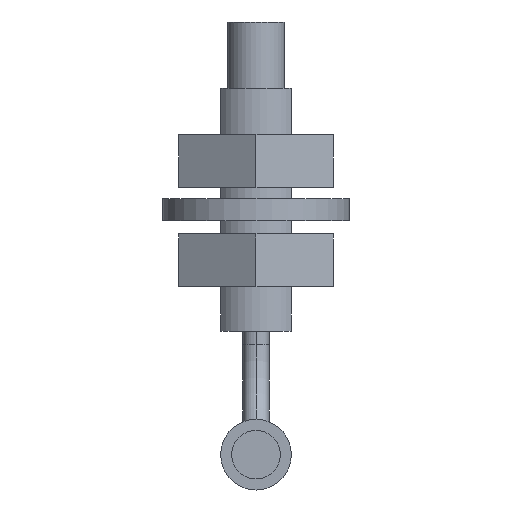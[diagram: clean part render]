
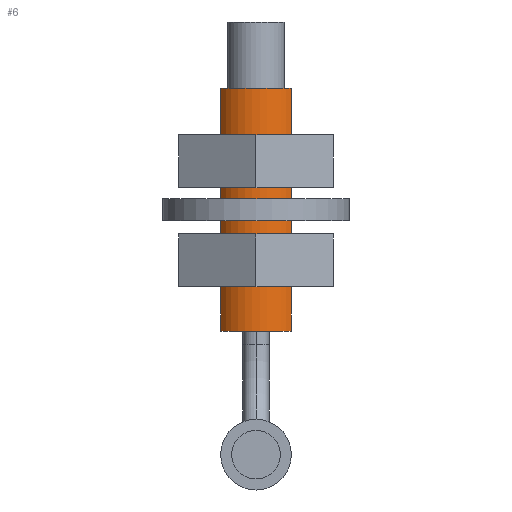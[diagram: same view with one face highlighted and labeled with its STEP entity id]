
A CAD part, front view. The second image highlights one B-rep face of the part: STEP entity #6.
In plain terms, the highlighted cylindrical face has radius 2 mm (diameter 4 mm), a partial arc.
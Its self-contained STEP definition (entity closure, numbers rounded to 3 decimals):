
#1 = ORIENTED_EDGE ( 'NONE', *, *, #12, .T. ) ;
#2 = EDGE_LOOP ( 'NONE', ( #1, #1502, #1491, #72 ) ) ;
#6 = ADVANCED_FACE ( 'NONE', ( #161 ), #158, .T. ) ;
#12 = EDGE_CURVE ( 'NONE', #18, #21, #139, .T. ) ;
#18 = VERTEX_POINT ( 'NONE', #196 ) ;
#21 = VERTEX_POINT ( 'NONE', #195 ) ;
#68 = EDGE_CURVE ( 'NONE', #97, #18, #245, .T. ) ;
#72 = ORIENTED_EDGE ( 'NONE', *, *, #68, .T. ) ;
#96 = EDGE_CURVE ( 'NONE', #97, #1492, #272, .T. ) ;
#97 = VERTEX_POINT ( 'NONE', #333 ) ;
#137 = CARTESIAN_POINT ( 'NONE',  ( 3., 0., 0. ) ) ;
#138 = AXIS2_PLACEMENT_3D ( 'NONE', #137, #203, #202 ) ;
#139 = CIRCLE ( 'NONE', #138, 2. ) ;
#155 = DIRECTION ( 'NONE',  ( 0., 0., 1. ) ) ;
#156 = DIRECTION ( 'NONE',  ( -1., 0., 0. ) ) ;
#157 = AXIS2_PLACEMENT_3D ( 'NONE', #160, #156, #155 ) ;
#158 = CYLINDRICAL_SURFACE ( 'NONE', #157, 2. ) ;
#160 = CARTESIAN_POINT ( 'NONE',  ( 14., 0., 0. ) ) ;
#161 = FACE_OUTER_BOUND ( 'NONE', #2, .T. ) ;
#195 = CARTESIAN_POINT ( 'NONE',  ( 3., -1.2, -1.6 ) ) ;
#196 = CARTESIAN_POINT ( 'NONE',  ( 3., -1.2, 1.6 ) ) ;
#202 = DIRECTION ( 'NONE',  ( 0., 0., -1. ) ) ;
#203 = DIRECTION ( 'NONE',  ( 1., 0., 0. ) ) ;
#242 = DIRECTION ( 'NONE',  ( -1., 0., 0. ) ) ;
#243 = VECTOR ( 'NONE', #242, 1000. ) ;
#244 = CARTESIAN_POINT ( 'NONE',  ( 14., -1.2, 1.6 ) ) ;
#245 = LINE ( 'NONE', #244, #243 ) ;
#269 = DIRECTION ( 'NONE',  ( 1., 0., 0. ) ) ;
#270 = CARTESIAN_POINT ( 'NONE',  ( 14., 0., 0. ) ) ;
#271 = AXIS2_PLACEMENT_3D ( 'NONE', #270, #269, #334 ) ;
#272 = CIRCLE ( 'NONE', #271, 2. ) ;
#333 = CARTESIAN_POINT ( 'NONE',  ( 14., -1.2, 1.6 ) ) ;
#334 = DIRECTION ( 'NONE',  ( 0., 0., -1. ) ) ;
#1300 = DIRECTION ( 'NONE',  ( -1., 0., 0. ) ) ;
#1301 = VECTOR ( 'NONE', #1300, 1000. ) ;
#1302 = CARTESIAN_POINT ( 'NONE',  ( 14., -1.2, -1.6 ) ) ;
#1303 = LINE ( 'NONE', #1302, #1301 ) ;
#1320 = CARTESIAN_POINT ( 'NONE',  ( 14., -1.2, -1.6 ) ) ;
#1491 = ORIENTED_EDGE ( 'NONE', *, *, #96, .F. ) ;
#1492 = VERTEX_POINT ( 'NONE', #1320 ) ;
#1501 = EDGE_CURVE ( 'NONE', #1492, #21, #1303, .T. ) ;
#1502 = ORIENTED_EDGE ( 'NONE', *, *, #1501, .F. ) ;
